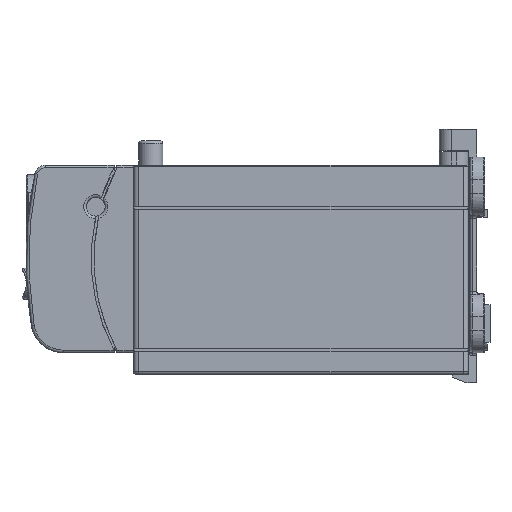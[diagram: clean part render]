
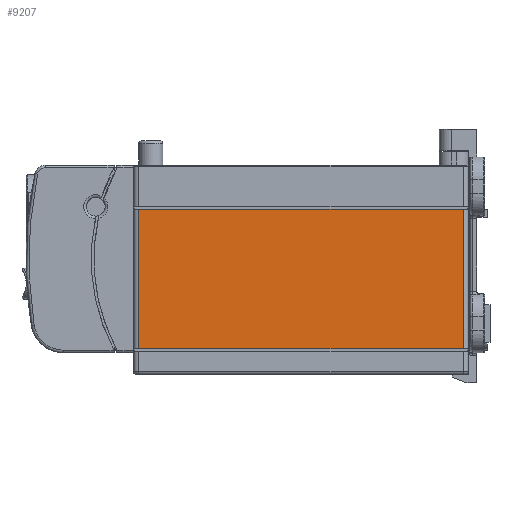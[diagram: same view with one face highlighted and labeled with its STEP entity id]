
A CAD part, left-side view. The second image highlights one B-rep face of the part: STEP entity #9207.
In plain terms, the highlighted planar face has unit normal (-1, 0, 0).
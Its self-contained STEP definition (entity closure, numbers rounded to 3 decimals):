
#499=LINE('',#45291,#3569);
#500=LINE('',#45294,#3570);
#501=LINE('',#45296,#3571);
#502=LINE('',#45298,#3572);
#3569=VECTOR('',#33875,1.);
#3570=VECTOR('',#33876,1.);
#3571=VECTOR('',#33877,1.);
#3572=VECTOR('',#33878,1.);
#6533=PLANE('',#30797);
#7661=FACE_OUTER_BOUND('',#12723,.T.);
#9207=ADVANCED_FACE('',(#7661),#6533,.F.);
#12723=EDGE_LOOP('',(#15237,#15238,#15239,#15240));
#15237=ORIENTED_EDGE('',*,*,#26592,.F.);
#15238=ORIENTED_EDGE('',*,*,#26593,.T.);
#15239=ORIENTED_EDGE('',*,*,#26594,.F.);
#15240=ORIENTED_EDGE('',*,*,#26595,.T.);
#23744=VERTEX_POINT('',#45292);
#23745=VERTEX_POINT('',#45293);
#23746=VERTEX_POINT('',#45295);
#23747=VERTEX_POINT('',#45297);
#26592=EDGE_CURVE('',#23744,#23745,#499,.T.);
#26593=EDGE_CURVE('',#23744,#23746,#500,.T.);
#26594=EDGE_CURVE('',#23747,#23746,#501,.T.);
#26595=EDGE_CURVE('',#23747,#23745,#502,.T.);
#30797=AXIS2_PLACEMENT_3D('',#45299,#33879,#33880);
#33875=DIRECTION('',(0.,-1.,0.));
#33876=DIRECTION('',(0.,0.,-1.));
#33877=DIRECTION('',(0.,1.,0.));
#33878=DIRECTION('',(0.,0.,1.));
#33879=DIRECTION('',(1.,0.,0.));
#33880=DIRECTION('',(0.,-1.,0.));
#45291=CARTESIAN_POINT('',(-62.5,62.5,80.));
#45292=CARTESIAN_POINT('',(-62.5,60.5,80.));
#45293=CARTESIAN_POINT('',(-62.5,-60.5,80.));
#45294=CARTESIAN_POINT('',(-62.5,60.5,96.5));
#45295=CARTESIAN_POINT('',(-62.5,60.5,28.));
#45296=CARTESIAN_POINT('',(-62.5,-66.5,28.));
#45297=CARTESIAN_POINT('',(-62.5,-60.5,28.));
#45298=CARTESIAN_POINT('',(-62.5,-60.5,96.5));
#45299=CARTESIAN_POINT('',(-62.5,62.5,96.5));
